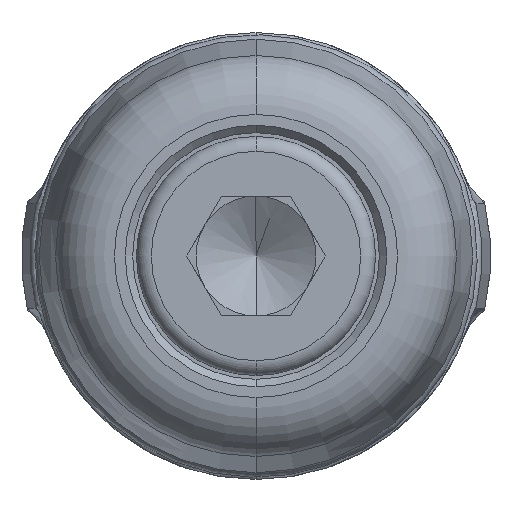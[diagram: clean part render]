
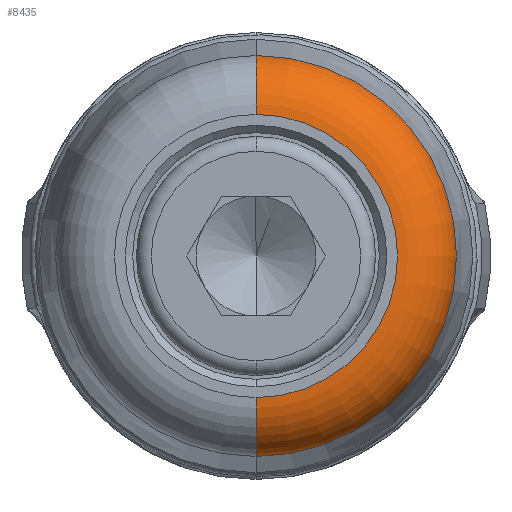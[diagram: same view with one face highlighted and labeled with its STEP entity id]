
A CAD part, front view. The second image highlights one B-rep face of the part: STEP entity #8435.
In plain terms, the highlighted toroidal (fillet/blend) face has major radius 9.475 mm and minor radius 4 mm.
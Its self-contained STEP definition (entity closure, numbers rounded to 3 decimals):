
#1553 = CARTESIAN_POINT ( 'NONE',  ( 0., -20.681, -13.417 ) ) ;
#1711 = AXIS2_PLACEMENT_3D ( 'NONE', #13806, #12269, #11021 ) ;
#1738 = AXIS2_PLACEMENT_3D ( 'NONE', #15445, #7381, #2125 ) ;
#1918 = CARTESIAN_POINT ( 'NONE',  ( 0., -24., -9.475 ) ) ;
#2125 = DIRECTION ( 'NONE',  ( 0., 0., -1. ) ) ;
#2297 = CARTESIAN_POINT ( 'NONE',  ( 0., -24., 0. ) ) ;
#2342 = TOROIDAL_SURFACE ( 'NONE', #5294, 9.475, 4. ) ;
#3148 = VERTEX_POINT ( 'NONE', #16533 ) ;
#3960 = EDGE_LOOP ( 'NONE', ( #9924, #9584, #8694, #13649 ) ) ;
#4159 = EDGE_CURVE ( 'NONE', #12168, #3148, #16437, .T. ) ;
#4832 = DIRECTION ( 'NONE',  ( 0., 0., 1. ) ) ;
#5017 = CARTESIAN_POINT ( 'NONE',  ( 0., -20.681, 13.417 ) ) ;
#5294 = AXIS2_PLACEMENT_3D ( 'NONE', #6987, #13773, #8218 ) ;
#6194 = VERTEX_POINT ( 'NONE', #5017 ) ;
#6326 = DIRECTION ( 'NONE',  ( 0., -1., 0. ) ) ;
#6591 = CIRCLE ( 'NONE', #1738, 4. ) ;
#6987 = CARTESIAN_POINT ( 'NONE',  ( 0., -20., 0. ) ) ;
#7381 = DIRECTION ( 'NONE',  ( 1., 0., 0. ) ) ;
#7812 = DIRECTION ( 'NONE',  ( 0., 0., -1. ) ) ;
#8218 = DIRECTION ( 'NONE',  ( 0., 0., 1. ) ) ;
#8231 = EDGE_CURVE ( 'NONE', #6194, #9187, #11839, .T. ) ;
#8435 = ADVANCED_FACE ( 'NONE', ( #17319 ), #2342, .T. ) ;
#8684 = AXIS2_PLACEMENT_3D ( 'NONE', #11749, #14484, #7812 ) ;
#8694 = ORIENTED_EDGE ( 'NONE', *, *, #8231, .F. ) ;
#9187 = VERTEX_POINT ( 'NONE', #1553 ) ;
#9584 = ORIENTED_EDGE ( 'NONE', *, *, #12699, .T. ) ;
#9924 = ORIENTED_EDGE ( 'NONE', *, *, #4159, .F. ) ;
#10694 = EDGE_CURVE ( 'NONE', #3148, #6194, #16233, .T. ) ;
#11021 = DIRECTION ( 'NONE',  ( 0., 0., 1. ) ) ;
#11731 = AXIS2_PLACEMENT_3D ( 'NONE', #2297, #6326, #4832 ) ;
#11749 = CARTESIAN_POINT ( 'NONE',  ( 0., -20.681, 0. ) ) ;
#11839 = CIRCLE ( 'NONE', #8684, 13.417 ) ;
#12168 = VERTEX_POINT ( 'NONE', #1918 ) ;
#12269 = DIRECTION ( 'NONE',  ( -1., 0., 0. ) ) ;
#12699 = EDGE_CURVE ( 'NONE', #12168, #9187, #6591, .T. ) ;
#13649 = ORIENTED_EDGE ( 'NONE', *, *, #10694, .F. ) ;
#13773 = DIRECTION ( 'NONE',  ( 0., 1., 0. ) ) ;
#13806 = CARTESIAN_POINT ( 'NONE',  ( 0., -20., 9.475 ) ) ;
#14484 = DIRECTION ( 'NONE',  ( 0., 1., 0. ) ) ;
#15445 = CARTESIAN_POINT ( 'NONE',  ( 0., -20., -9.475 ) ) ;
#16233 = CIRCLE ( 'NONE', #1711, 4. ) ;
#16437 = CIRCLE ( 'NONE', #11731, 9.475 ) ;
#16533 = CARTESIAN_POINT ( 'NONE',  ( 0., -24., 9.475 ) ) ;
#17319 = FACE_OUTER_BOUND ( 'NONE', #3960, .T. ) ;
